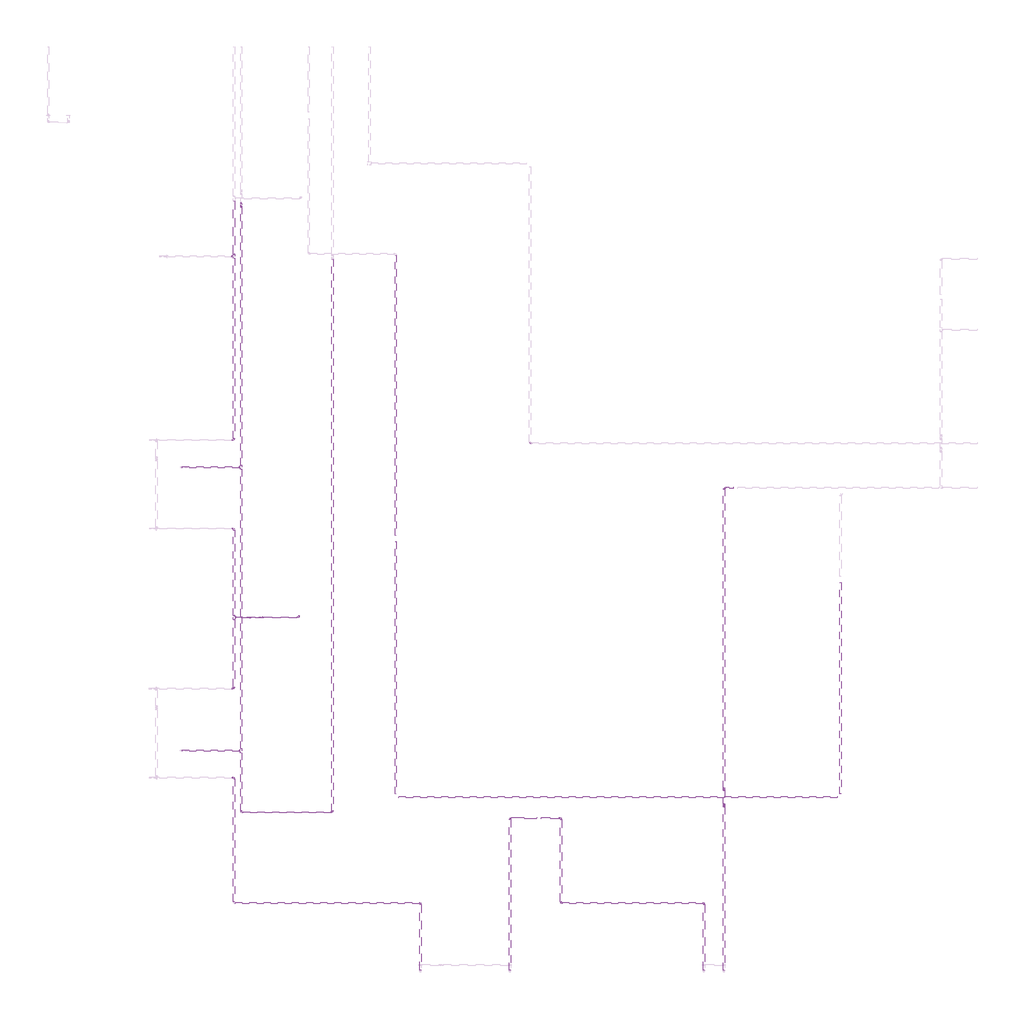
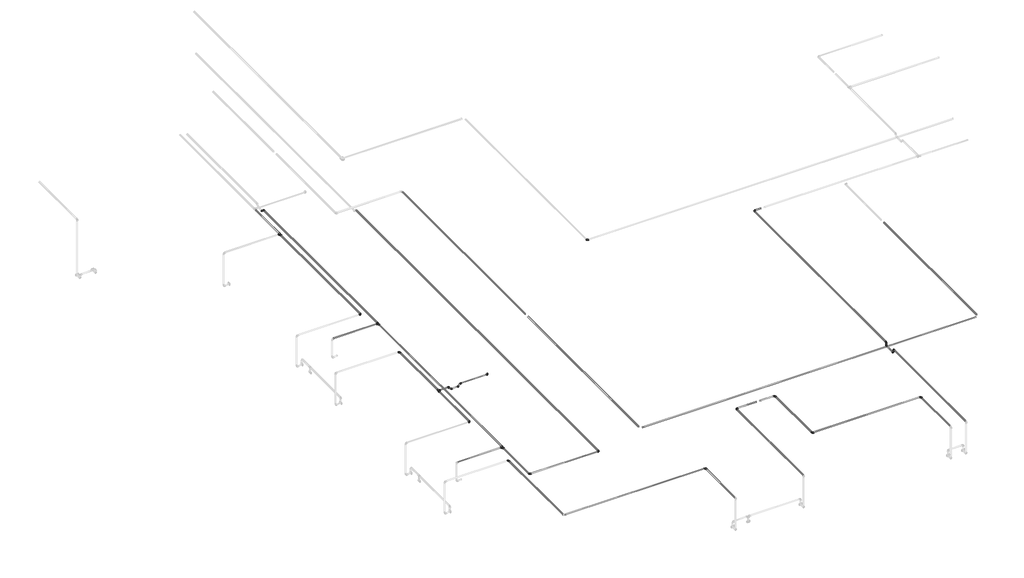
# One storey, part 6 of 40: 37 cable carrier segments, 28 cable carrier fittings.
"""IFC4 building model written with IfcOpenShell, lengths in millimetres."""

from ifc_helpers import new_model, si_unit, point, frame, frame_2d, origin, place, context, project, spatial, circle_curve, trimmed, segment, composite_curve, outline, extrude, transform, mapped, element, save
from components import cable_carrier_fitting_69f1a801, cable_carrier_fitting_8122f9af, cable_carrier_fitting_8fd13dfc

model = new_model("IFC4")

# Units and contexts
model_context = context("Model", 3, world=origin())
ifc_project = project(units=[si_unit("LENGTHUNIT", "METRE", prefix="MILLI")], contexts=[model_context])

# Site, building, storey
site = spatial("IfcSite", under=ifc_project)
building = spatial("IfcBuilding", under=site)
storey = spatial("IfcBuildingStorey", under=building, Name="1 этаж", Elevation=0.0)

# Cable carrier fittings
placement = place(None, origin())
cable_carrier_fitting_shape = cable_carrier_fitting_69f1a801(model_context)
element("IfcCableCarrierFitting", 1, ObjectType="ADSK_Поворот_Минимальный размер : Неспецифицируемый", at=placement, inside=storey, context=model_context, shape_type="MappedRepresentation", body=[
    mapped(cable_carrier_fitting_shape, transform((-11157.3240021, -4592.8629733, 3189.9998546), x_axis=(0.0, -0.9999999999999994, -3.56622215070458e-08), y_axis=(0.9999999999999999, 0.0, 2.0541520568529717e-08), z_axis=(-2.0541520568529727e-08, -3.5662221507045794e-08, 0.9999999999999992))),
])
element("IfcCableCarrierFitting", 2, ObjectType="ADSK_Поворот_Минимальный размер : Неспецифицируемый", at=placement, inside=storey, context=model_context, shape_type="MappedRepresentation", body=[
    mapped(cable_carrier_fitting_shape, transform((-8307.3240021, -5245.3629895, 3187.0), x_axis=(-1.0, 0.0, 0.0), y_axis=(0.0, -1.0, 0.0), z_axis=(0.0, 0.0, 1.0))),
])
element("IfcCableCarrierFitting", 3, ObjectType="ADSK_Поворот_Минимальный размер : Неспецифицируемый", at=placement, inside=storey, context=model_context, shape_type="MappedRepresentation", body=[
    mapped(cable_carrier_fitting_shape, transform((-8307.3240021, -9676.9321665, 3187.0), x_axis=(0.0, -1.0, 0.0), y_axis=(0.0, 0.0, -1.0), z_axis=(1.0, 0.0, 0.0))),
])
element("IfcCableCarrierFitting", 4, ObjectType="ADSK_Поворот_Минимальный размер : Неспецифицируемый", at=placement, inside=storey, context=model_context, shape_type="MappedRepresentation", body=[
    mapped(cable_carrier_fitting_shape, transform((-8307.3240021, -9676.9321665, 3120.0), x_axis=(0.0, 0.0, -1.0), y_axis=(0.0, -1.0, 0.0), z_axis=(-1.0, 0.0, 0.0))),
])
element("IfcCableCarrierFitting", 5, ObjectType="ADSK_Поворот_Минимальный размер : Неспецифицируемый", at=placement, inside=storey, context=model_context, shape_type="MappedRepresentation", body=[
    mapped(cable_carrier_fitting_shape, transform((-8307.3240021, -9916.9321665, 3120.0), x_axis=(0.0, -1.0, 0.0), y_axis=(0.0, 0.0, 1.0), z_axis=(-1.0, 0.0, 0.0))),
])
element("IfcCableCarrierFitting", 6, ObjectType="ADSK_Поворот_Минимальный размер : Неспецифицируемый", at=placement, inside=storey, context=model_context, shape_type="MappedRepresentation", body=[
    mapped(cable_carrier_fitting_shape, transform((-8307.3240021, -9916.9321665, 3187.0), x_axis=(0.0, 0.0, 1.0), y_axis=(0.0, -1.0, 0.0), z_axis=(1.0, 0.0, 0.0))),
])
element("IfcCableCarrierFitting", 7, ObjectType="ADSK_Поворот_Минимальный размер : Неспецифицируемый", at=placement, inside=storey, context=model_context, shape_type="MappedRepresentation", body=[
    mapped(cable_carrier_fitting_shape, transform((-12767.3240021, -11350.3629895, 3187.0), x_axis=(0.0, 1.0, 0.0), y_axis=(-1.0, 0.0, 0.0), z_axis=(0.0, 0.0, 1.0))),
])
element("IfcCableCarrierFitting", 8, ObjectType="ADSK_Поворот_Минимальный размер : Неспецифицируемый", at=placement, inside=storey, context=model_context, shape_type="MappedRepresentation", body=[
    mapped(cable_carrier_fitting_shape, transform((-15509.3240021, -9505.3629895, 3187.0), x_axis=(0.0, 1.0, 0.0), y_axis=(-1.0, 0.0, 0.0), z_axis=(0.0, 0.0, 1.0))),
])
element("IfcCableCarrierFitting", 9, ObjectType="ADSK_Поворот_Минимальный размер : Неспецифицируемый", at=placement, inside=storey, context=model_context, shape_type="MappedRepresentation", body=[
    mapped(cable_carrier_fitting_shape, transform((-15509.3240021, -4545.3629895, 3166.0), x_axis=(1.0, 0.0, 0.0), y_axis=(0.0, 1.0, 0.0), z_axis=(0.0, 0.0, 1.0))),
])
element("IfcCableCarrierFitting", 10, ObjectType="ADSK_Поворот_Минимальный размер : Неспецифицируемый", at=placement, inside=storey, context=model_context, shape_type="MappedRepresentation", body=[
    mapped(cable_carrier_fitting_shape, transform((-10704.8240021, -10102.8629895, 3187.0), x_axis=(0.0, 1.0, 0.0), y_axis=(-1.0, 0.0, 0.0), z_axis=(0.0, 0.0, 1.0))),
])
element("IfcCableCarrierFitting", 11, ObjectType="ADSK_Поворот_Минимальный размер : Неспецифицируемый", at=placement, inside=storey, context=model_context, shape_type="MappedRepresentation", body=[
    mapped(cable_carrier_fitting_shape, transform((-11452.3240021, -10102.8629895, 3187.0), x_axis=(-1.0, 0.0, 0.0), y_axis=(0.0, -1.0, 0.0), z_axis=(0.0, 0.0, 1.0))),
])
element("IfcCableCarrierFitting", 12, ObjectType="ADSK_Поворот_Минимальный размер : Неспецифицируемый", at=placement, inside=storey, context=model_context, shape_type="MappedRepresentation", body=[
    mapped(cable_carrier_fitting_shape, transform((-10704.8240021, -11350.3629895, 3187.0), x_axis=(0.0, -1.0, 0.0), y_axis=(1.0, 0.0, 0.0), z_axis=(0.0, 0.0, 1.0))),
])
element("IfcCableCarrierFitting", 13, ObjectType="ADSK_Поворот_Минимальный размер : Неспецифицируемый", at=placement, inside=storey, context=model_context, shape_type="MappedRepresentation", body=[
    mapped(cable_carrier_fitting_shape, transform((-8602.3240021, -11350.3629895, 3187.0), x_axis=(0.0, 1.0, 0.0), y_axis=(-1.0, 0.0, 0.0), z_axis=(0.0, 0.0, 1.0))),
])
element("IfcCableCarrierFitting", 14, ObjectType="ADSK_Поворот_Минимальный размер : Неспецифицируемый", at=placement, inside=storey, context=model_context, shape_type="MappedRepresentation", body=[
    mapped(cable_carrier_fitting_shape, transform((-14557.3240021, -7152.0021867, 3187.0), x_axis=(1.0, 0.0, 0.0), y_axis=(0.0, 1.0, 0.0), z_axis=(0.0, 0.0, 1.0))),
])
element("IfcCableCarrierFitting", 15, ObjectType="ADSK_Поворот_Минимальный размер : Неспецифицируемый", at=placement, inside=storey, context=model_context, shape_type="MappedRepresentation", body=[
    mapped(cable_carrier_fitting_shape, transform((-15509.3240021, -8200.3629895, 3187.0), x_axis=(1.0, 0.0, 0.0), y_axis=(0.0, 1.0, 0.0), z_axis=(0.0, 0.0, 1.0))),
])
element("IfcCableCarrierFitting", 16, ObjectType="ADSK_Поворот_Минимальный размер : Неспецифицируемый", at=placement, inside=storey, context=model_context, shape_type="MappedRepresentation", body=[
    mapped(cable_carrier_fitting_shape, transform((-15509.3240021, -5845.3629895, 3187.0), x_axis=(0.0, 1.0, 0.0), y_axis=(-1.0, 0.0, 0.0), z_axis=(0.0, 0.0, 1.0))),
])
element("IfcCableCarrierFitting", 17, ObjectType="ADSK_Поворот_Минимальный размер : Неспецифицируемый", at=placement, inside=storey, context=model_context, shape_type="MappedRepresentation", body=[
    mapped(cable_carrier_fitting_shape, transform((-15402.3240021, -10017.9201449, 3180.0), x_axis=(0.0, -1.0, 0.0), y_axis=(1.0, 0.0, 0.0), z_axis=(0.0, 0.0, 1.0))),
])
element("IfcCableCarrierFitting", 18, ObjectType="ADSK_Поворот_Минимальный размер : Неспецифицируемый", at=placement, inside=storey, context=model_context, shape_type="MappedRepresentation", body=[
    mapped(cable_carrier_fitting_shape, transform((-14061.8509929, -10017.9201449, 3180.0), x_axis=(1.0, 0.0, 0.0), y_axis=(0.0, 1.0, 0.0), z_axis=(0.0, 0.0, 1.0))),
])
cable_carrier_fitting_2_shape = cable_carrier_fitting_8122f9af(model_context)
element("IfcCableCarrierFitting", 19, ObjectType="ADSK_Поворот_Минимальный размер : Неспецифицируемый", at=placement, inside=storey, context=model_context, shape_type="MappedRepresentation", body=[
    mapped(cable_carrier_fitting_2_shape, transform((-15402.3240021, -1109.556006, 3180.0), x_axis=(0.0, 1.0, 0.0), y_axis=(0.0, 0.0, -1.0), z_axis=(-1.0, 0.0, 0.0))),
])
element("IfcCableCarrierFitting", 20, ObjectType="ADSK_Поворот_Минимальный размер : Неспецифицируемый", at=placement, inside=storey, context=model_context, shape_type="MappedRepresentation", body=[
    mapped(cable_carrier_fitting_2_shape, transform((-15402.3240021, -1059.556006, 3130.0), x_axis=(0.0, 0.7071067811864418, -0.7071067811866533), y_axis=(0.0, 0.7071067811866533, 0.7071067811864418), z_axis=(1.0, 0.0, 0.0))),
])
element("IfcCableCarrierFitting", 21, ObjectType="ADSK_Поворот_Минимальный размер : Неспецифицируемый", at=placement, inside=storey, context=model_context, shape_type="MappedRepresentation", body=[
    mapped(cable_carrier_fitting_2_shape, transform((-15130.7517309, -7152.0021867, 3137.0), x_axis=(-0.7071067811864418, 0.0, -0.7071067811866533), y_axis=(-0.7071067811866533, 0.0, 0.7071067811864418), z_axis=(0.0, 1.0, 0.0))),
])
element("IfcCableCarrierFitting", 22, ObjectType="ADSK_Поворот_Минимальный размер : Неспецифицируемый", at=placement, inside=storey, context=model_context, shape_type="MappedRepresentation", body=[
    mapped(cable_carrier_fitting_2_shape, transform((-15263.8962734, -7152.0021867, 3137.0), x_axis=(-1.0, 0.0, 0.0), y_axis=(0.0, 0.0, 1.0), z_axis=(0.0, 1.0, 0.0))),
])
element("IfcCableCarrierFitting", 23, ObjectType="ADSK_Поворот_Минимальный размер : Неспецифицируемый", at=placement, inside=storey, context=model_context, shape_type="MappedRepresentation", body=[
    mapped(cable_carrier_fitting_2_shape, transform((-15080.7517309, -7152.0021867, 3187.0), x_axis=(0.7071067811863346, 0.0, 0.7071067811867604), y_axis=(0.7071067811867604, 0.0, -0.7071067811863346), z_axis=(0.0, 1.0, 0.0))),
])
element("IfcCableCarrierFitting", 24, ObjectType="ADSK_Поворот_Минимальный размер : Неспецифицируемый", at=placement, inside=storey, context=model_context, shape_type="MappedRepresentation", body=[
    mapped(cable_carrier_fitting_2_shape, transform((-15313.8962734, -7152.0021867, 3187.0), x_axis=(-0.7071067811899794, 0.0, 0.7071067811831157), y_axis=(-0.7071067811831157, 0.0, -0.7071067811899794), z_axis=(0.0, -1.0, 0.0))),
])
cable_carrier_fitting_3_shape = cable_carrier_fitting_8fd13dfc(model_context)
element("IfcCableCarrierFitting", 25, ObjectType="ADSK_Тройник : ПВХ", at=placement, inside=storey, context=model_context, shape_type="MappedRepresentation", body=[
    mapped(cable_carrier_fitting_3_shape, transform((-15402.3240021, -4942.8629895, 3180.0), x_axis=(0.0, -1.0, 0.0), y_axis=(1.0, 0.0, 0.0), z_axis=(0.0, 0.0, 1.0))),
])
element("IfcCableCarrierFitting", 26, ObjectType="ADSK_Тройник : ПВХ", at=placement, inside=storey, context=model_context, shape_type="MappedRepresentation", body=[
    mapped(cable_carrier_fitting_3_shape, transform((-15402.3240021, -9110.3629895, 3180.0), x_axis=(0.0, -1.0, 0.0), y_axis=(1.0, 0.0, 0.0), z_axis=(0.0, 0.0, 1.0))),
])
element("IfcCableCarrierFitting", 27, ObjectType="ADSK_Тройник : ПВХ", at=placement, inside=storey, context=model_context, shape_type="MappedRepresentation", body=[
    mapped(cable_carrier_fitting_3_shape, transform((-15509.3240021, -7152.0021867, 3187.0), x_axis=(0.0, 1.0, 0.0), y_axis=(-1.0, 0.0, 0.0), z_axis=(0.0, 0.0, 1.0))),
])
element("IfcCableCarrierFitting", 28, ObjectType="ADSK_Тройник : ПВХ", at=placement, inside=storey, context=model_context, shape_type="MappedRepresentation", body=[
    mapped(cable_carrier_fitting_3_shape, transform((-15509.3240021, -1842.8629895, 3166.0), x_axis=(0.0, -1.0, 0.0), y_axis=(1.0, 0.0, 0.0), z_axis=(0.0, 0.0, 1.0))),
])

# Cable carrier segments
element("IfcCableCarrierSegment", 29, ObjectType="Гофрированная труба", at=placement, inside=storey, context=model_context, shape_type="SweptSolid", body=[
    extrude(outline(composite_curve([segment(trimmed(circle_curve(frame_2d((3189.958066, -6594.7740026)), 10.0), [point((3189.958066, -6604.7740026))], [point((3179.958066, -6594.7740026))], False, "CARTESIAN"), True, "CONTINUOUS"), segment(trimmed(circle_curve(frame_2d((3189.958066, -6594.7740026)), 10.0), [point((3179.958066, -6594.7740026))], [point((3189.958066, -6584.7740026))], False, "CARTESIAN"), True, "CONTINUOUS"), segment(trimmed(circle_curve(frame_2d((3189.958066, -6594.7740026)), 10.0), [point((3189.958066, -6584.7740026))], [point((3199.958066, -6594.7740026))], False, "CARTESIAN"), True, "CONTINUOUS"), segment(trimmed(circle_curve(frame_2d((3189.958066, -6594.7740026)), 10.0), [point((3199.958066, -6594.7740026))], [point((3189.958066, -6604.7740026))], False, "CARTESIAN"), True, "CONTINUOUS")], self_intersect=False)), frame((0.0, -9748.8629895, 0.0), z_axis=(0.0, 1.0, 0.0), x_axis=(0.0, 0.0, 1.0)), (0.0, 0.0, 1.0), 3107.0),
])
element("IfcCableCarrierSegment", 30, ObjectType="Гофрированная труба", at=placement, inside=storey, context=model_context, shape_type="SweptSolid", body=[
    extrude(outline(composite_curve([segment(trimmed(circle_curve(frame_2d((-9795.3629895, 3189.958066)), 10.0), [point((-9805.3629895, 3189.958066))], [point((-9795.3629895, 3199.958066))], False, "CARTESIAN"), True, "CONTINUOUS"), segment(trimmed(circle_curve(frame_2d((-9795.3629895, 3189.958066)), 10.0), [point((-9795.3629895, 3199.958066))], [point((-9785.3629895, 3189.958066))], False, "CARTESIAN"), True, "CONTINUOUS"), segment(trimmed(circle_curve(frame_2d((-9795.3629895, 3189.958066)), 10.0), [point((-9785.3629895, 3189.958066))], [point((-9795.3629895, 3179.958066))], False, "CARTESIAN"), True, "CONTINUOUS"), segment(trimmed(circle_curve(frame_2d((-9795.3629895, 3189.958066)), 10.0), [point((-9795.3629895, 3179.958066))], [point((-9805.3629895, 3189.958066))], False, "CARTESIAN"), True, "CONTINUOUS")], self_intersect=False)), frame((-13085.8240021, 0.0, 0.0), z_axis=(1.0, 0.0, 0.0), x_axis=(0.0, 1.0, 0.0)), (0.0, 0.0, 1.0), 6444.5499995),
])
element("IfcCableCarrierSegment", 31, ObjectType="Гофрированная труба", at=placement, inside=storey, context=model_context, shape_type="SweptSolid", body=[
    extrude(outline(composite_curve([segment(trimmed(circle_curve(frame_2d((0.0, -10.0)), 10.0), [point((0.0, -20.0))], [point((-10.0, -10.0))], False, "CARTESIAN"), True, "CONTINUOUS"), segment(trimmed(circle_curve(frame_2d((0.0, -10.0)), 10.0), [point((-10.0, -10.0))], [point((0.0, 0.0))], False, "CARTESIAN"), True, "CONTINUOUS"), segment(trimmed(circle_curve(frame_2d((0.0, -10.0)), 10.0), [point((0.0, 0.0))], [point((10.0, -10.0))], False, "CARTESIAN"), True, "CONTINUOUS"), segment(trimmed(circle_curve(frame_2d((0.0, -10.0)), 10.0), [point((10.0, -10.0))], [point((0.0, -20.0))], False, "CARTESIAN"), True, "CONTINUOUS")], self_intersect=False)), frame((-13142.3240021, -6039.3629895, 3189.249755), z_axis=(0.0, -0.9999999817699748, 0.00019094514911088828), x_axis=(0.0, 0.00019094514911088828, 0.9999999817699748)), (0.0, 0.0, 1.0), 3709.5000676),
])
element("IfcCableCarrierSegment", 32, ObjectType="Гофрированная труба", at=placement, inside=storey, context=model_context, shape_type="SweptSolid", body=[
    extrude(outline(composite_curve([segment(trimmed(circle_curve(frame_2d((0.0, 10.0)), 10.0), [point((0.0, 20.0))], [point((10.0, 10.0))], False, "CARTESIAN"), True, "CONTINUOUS"), segment(trimmed(circle_curve(frame_2d((0.0, 10.0)), 10.0), [point((10.0, 10.0))], [point((0.0, 0.0))], False, "CARTESIAN"), True, "CONTINUOUS"), segment(trimmed(circle_curve(frame_2d((0.0, 10.0)), 10.0), [point((0.0, 0.0))], [point((-10.0, 10.0))], False, "CARTESIAN"), True, "CONTINUOUS"), segment(trimmed(circle_curve(frame_2d((0.0, 10.0)), 10.0), [point((-10.0, 10.0))], [point((0.0, 20.0))], False, "CARTESIAN"), True, "CONTINUOUS")], self_intersect=False)), frame((-13142.3240021, -5946.3629895, 3189.249755), z_axis=(0.0, 0.9999999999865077, 5.194688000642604e-06), x_axis=(0.0, -5.194688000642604e-06, 0.9999999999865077)), (0.0, 0.0, 1.0), 4116.5001344),
])
element("IfcCableCarrierSegment", 33, ObjectType="Гофрированная труба", at=placement, inside=storey, context=model_context, shape_type="SweptSolid", body=[
    extrude(outline(composite_curve([segment(trimmed(circle_curve(frame_2d((-5245.3629895, 3187.0)), 10.0), [point((-5235.3629895, 3187.0))], [point((-5245.3629895, 3177.0))], False, "CARTESIAN"), True, "CONTINUOUS"), segment(trimmed(circle_curve(frame_2d((-5245.3629895, 3187.0)), 10.0), [point((-5245.3629895, 3177.0))], [point((-5255.3629895, 3187.0))], False, "CARTESIAN"), True, "CONTINUOUS"), segment(trimmed(circle_curve(frame_2d((-5245.3629895, 3187.0)), 10.0), [point((-5255.3629895, 3187.0))], [point((-5245.3629895, 3197.0))], False, "CARTESIAN"), True, "CONTINUOUS"), segment(trimmed(circle_curve(frame_2d((-5245.3629895, 3187.0)), 10.0), [point((-5245.3629895, 3197.0))], [point((-5235.3629895, 3187.0))], False, "CARTESIAN"), True, "CONTINUOUS")], self_intersect=False)), frame((-8286.3240021, 0.0, 0.0), z_axis=(1.0, 0.0, 0.0), x_axis=(0.0, 1.0, 0.0)), (0.0, 0.0, 1.0), 116.6102785),
])
element("IfcCableCarrierSegment", 34, ObjectType="Гофрированная труба", at=placement, inside=storey, context=model_context, shape_type="SweptSolid", body=[
    extrude(outline(composite_curve([segment(trimmed(circle_curve(frame_2d((3187.0, -8307.3240021)), 10.0), [point((3187.0, -8317.3240021))], [point((3177.0, -8307.3240021))], False, "CARTESIAN"), True, "CONTINUOUS"), segment(trimmed(circle_curve(frame_2d((3187.0, -8307.3240021)), 10.0), [point((3177.0, -8307.3240021))], [point((3187.0, -8297.3240021))], False, "CARTESIAN"), True, "CONTINUOUS"), segment(trimmed(circle_curve(frame_2d((3187.0, -8307.3240021)), 10.0), [point((3187.0, -8297.3240021))], [point((3197.0, -8307.3240021))], False, "CARTESIAN"), True, "CONTINUOUS"), segment(trimmed(circle_curve(frame_2d((3187.0, -8307.3240021)), 10.0), [point((3197.0, -8307.3240021))], [point((3187.0, -8317.3240021))], False, "CARTESIAN"), True, "CONTINUOUS")], self_intersect=False)), frame((0.0, -9655.9321665, 0.0), z_axis=(0.0, 1.0, 0.0), x_axis=(0.0, 0.0, 1.0)), (0.0, 0.0, 1.0), 4389.569177),
])
element("IfcCableCarrierSegment", 35, ObjectType="Гофрированная труба", at=placement, inside=storey, context=model_context, shape_type="SweptSolid", body=[
    extrude(outline(composite_curve([segment(trimmed(circle_curve(frame_2d((3120.0, -8307.3240021)), 10.0), [point((3120.0, -8317.3240021))], [point((3110.0, -8307.3240021))], False, "CARTESIAN"), True, "CONTINUOUS"), segment(trimmed(circle_curve(frame_2d((3120.0, -8307.3240021)), 10.0), [point((3110.0, -8307.3240021))], [point((3120.0, -8297.3240021))], False, "CARTESIAN"), True, "CONTINUOUS"), segment(trimmed(circle_curve(frame_2d((3120.0, -8307.3240021)), 10.0), [point((3120.0, -8297.3240021))], [point((3130.0, -8307.3240021))], False, "CARTESIAN"), True, "CONTINUOUS"), segment(trimmed(circle_curve(frame_2d((3120.0, -8307.3240021)), 10.0), [point((3130.0, -8307.3240021))], [point((3120.0, -8317.3240021))], False, "CARTESIAN"), True, "CONTINUOUS")], self_intersect=False)), frame((0.0, -9895.9321665, 0.0), z_axis=(0.0, 1.0, 0.0), x_axis=(0.0, 0.0, 1.0)), (0.0, 0.0, 1.0), 198.0),
])
element("IfcCableCarrierSegment", 36, ObjectType="Гофрированная труба", at=placement, inside=storey, context=model_context, shape_type="SweptSolid", body=[
    extrude(outline(composite_curve([segment(trimmed(circle_curve(frame_2d((-8307.3240021, -9676.9321665)), 10.0), [point((-8297.3240021, -9676.9321665))], [point((-8307.3240021, -9686.9321665))], False, "CARTESIAN"), True, "CONTINUOUS"), segment(trimmed(circle_curve(frame_2d((-8307.3240021, -9676.9321665)), 10.0), [point((-8307.3240021, -9686.9321665))], [point((-8317.3240021, -9676.9321665))], False, "CARTESIAN"), True, "CONTINUOUS"), segment(trimmed(circle_curve(frame_2d((-8307.3240021, -9676.9321665)), 10.0), [point((-8317.3240021, -9676.9321665))], [point((-8307.3240021, -9666.9321665))], False, "CARTESIAN"), True, "CONTINUOUS"), segment(trimmed(circle_curve(frame_2d((-8307.3240021, -9676.9321665)), 10.0), [point((-8307.3240021, -9666.9321665))], [point((-8297.3240021, -9676.9321665))], False, "CARTESIAN"), True, "CONTINUOUS")], self_intersect=False)), frame((0.0, 0.0, 3141.0), z_axis=(0.0, 0.0, 1.0), x_axis=(1.0, 0.0, 0.0)), (0.0, 0.0, 1.0), 25.0),
])
element("IfcCableCarrierSegment", 37, ObjectType="Гофрированная труба", at=placement, inside=storey, context=model_context, shape_type="SweptSolid", body=[
    extrude(outline(composite_curve([segment(trimmed(circle_curve(frame_2d((3187.0, -8307.3240021)), 10.0), [point((3187.0, -8297.3240021))], [point((3197.0, -8307.3240021))], False, "CARTESIAN"), True, "CONTINUOUS"), segment(trimmed(circle_curve(frame_2d((3187.0, -8307.3240021)), 10.0), [point((3197.0, -8307.3240021))], [point((3187.0, -8317.3240021))], False, "CARTESIAN"), True, "CONTINUOUS"), segment(trimmed(circle_curve(frame_2d((3187.0, -8307.3240021)), 10.0), [point((3187.0, -8317.3240021))], [point((3177.0, -8307.3240021))], False, "CARTESIAN"), True, "CONTINUOUS"), segment(trimmed(circle_curve(frame_2d((3187.0, -8307.3240021)), 10.0), [point((3177.0, -8307.3240021))], [point((3187.0, -8297.3240021))], False, "CARTESIAN"), True, "CONTINUOUS")], self_intersect=False)), frame((0.0, -12338.5627951, 0.0), z_axis=(0.0, 1.0, 0.0), x_axis=(0.0, 0.0, 1.0)), (0.0, 0.0, 1.0), 2400.6306286),
])
element("IfcCableCarrierSegment", 38, ObjectType="Гофрированная труба", at=placement, inside=storey, context=model_context, shape_type="SweptSolid", body=[
    extrude(outline(composite_curve([segment(trimmed(circle_curve(frame_2d((0.0, 10.0)), 10.0), [point((-10.0, 10.0))], [point((0.0, 20.0))], False, "CARTESIAN"), True, "CONTINUOUS"), segment(trimmed(circle_curve(frame_2d((0.0, 10.0)), 10.0), [point((0.0, 20.0))], [point((10.0, 10.0))], False, "CARTESIAN"), True, "CONTINUOUS"), segment(trimmed(circle_curve(frame_2d((0.0, 10.0)), 10.0), [point((10.0, 10.0))], [point((0.0, 0.0))], False, "CARTESIAN"), True, "CONTINUOUS"), segment(trimmed(circle_curve(frame_2d((0.0, 10.0)), 10.0), [point((0.0, 0.0))], [point((-10.0, 10.0))], False, "CARTESIAN"), True, "CONTINUOUS")], self_intersect=False)), frame((-8307.3240021, -9926.9321665, 3141.0), z_axis=(0.0, 1.0287237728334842e-12, 1.0), x_axis=(1.0, 0.0, 0.0)), (0.0, 0.0, 1.0), 25.0),
])
element("IfcCableCarrierSegment", 39, ObjectType="Гофрированная труба", at=placement, inside=storey, context=model_context, shape_type="SweptSolid", body=[
    extrude(outline(composite_curve([segment(trimmed(circle_curve(frame_2d((3187.0, -8602.3240021)), 10.0), [point((3187.0, -8592.3240021))], [point((3197.0, -8602.3240021))], False, "CARTESIAN"), True, "CONTINUOUS"), segment(trimmed(circle_curve(frame_2d((3187.0, -8602.3240021)), 10.0), [point((3197.0, -8602.3240021))], [point((3187.0, -8612.3240021))], False, "CARTESIAN"), True, "CONTINUOUS"), segment(trimmed(circle_curve(frame_2d((3187.0, -8602.3240021)), 10.0), [point((3187.0, -8612.3240021))], [point((3177.0, -8602.3240021))], False, "CARTESIAN"), True, "CONTINUOUS"), segment(trimmed(circle_curve(frame_2d((3187.0, -8602.3240021)), 10.0), [point((3177.0, -8602.3240021))], [point((3187.0, -8592.3240021))], False, "CARTESIAN"), True, "CONTINUOUS")], self_intersect=False)), frame((0.0, -12338.5627951, 0.0), z_axis=(0.0, 1.0, 0.0), x_axis=(0.0, 0.0, 1.0)), (0.0, 0.0, 1.0), 967.1998056),
])
element("IfcCableCarrierSegment", 40, ObjectType="Гофрированная труба", at=placement, inside=storey, context=model_context, shape_type="SweptSolid", body=[
    extrude(outline(composite_curve([segment(trimmed(circle_curve(frame_2d((-11350.3629895, 3187.0)), 10.0), [point((-11360.3629895, 3187.0))], [point((-11350.3629895, 3197.0))], False, "CARTESIAN"), True, "CONTINUOUS"), segment(trimmed(circle_curve(frame_2d((-11350.3629895, 3187.0)), 10.0), [point((-11350.3629895, 3197.0))], [point((-11340.3629895, 3187.0))], False, "CARTESIAN"), True, "CONTINUOUS"), segment(trimmed(circle_curve(frame_2d((-11350.3629895, 3187.0)), 10.0), [point((-11340.3629895, 3187.0))], [point((-11350.3629895, 3177.0))], False, "CARTESIAN"), True, "CONTINUOUS"), segment(trimmed(circle_curve(frame_2d((-11350.3629895, 3187.0)), 10.0), [point((-11350.3629895, 3177.0))], [point((-11360.3629895, 3187.0))], False, "CARTESIAN"), True, "CONTINUOUS")], self_intersect=False)), frame((-10683.8240021, 0.0, 0.0), z_axis=(1.0, 0.0, 0.0), x_axis=(0.0, 1.0, 0.0)), (0.0, 0.0, 1.0), 2060.5),
])
element("IfcCableCarrierSegment", 41, ObjectType="Гофрированная труба", at=placement, inside=storey, context=model_context, shape_type="SweptSolid", body=[
    extrude(outline(composite_curve([segment(trimmed(circle_curve(frame_2d((3187.0, -11452.3240021)), 10.0), [point((3187.0, -11462.3240021))], [point((3177.0, -11452.3240021))], False, "CARTESIAN"), True, "CONTINUOUS"), segment(trimmed(circle_curve(frame_2d((3187.0, -11452.3240021)), 10.0), [point((3177.0, -11452.3240021))], [point((3187.0, -11442.3240021))], False, "CARTESIAN"), True, "CONTINUOUS"), segment(trimmed(circle_curve(frame_2d((3187.0, -11452.3240021)), 10.0), [point((3187.0, -11442.3240021))], [point((3197.0, -11452.3240021))], False, "CARTESIAN"), True, "CONTINUOUS"), segment(trimmed(circle_curve(frame_2d((3187.0, -11452.3240021)), 10.0), [point((3197.0, -11452.3240021))], [point((3187.0, -11462.3240021))], False, "CARTESIAN"), True, "CONTINUOUS")], self_intersect=False)), frame((0.0, -12338.5627951, 0.0), z_axis=(0.0, 1.0, 0.0), x_axis=(0.0, 0.0, 1.0)), (0.0, 0.0, 1.0), 2214.6998056),
])
element("IfcCableCarrierSegment", 42, ObjectType="Гофрированная труба", at=placement, inside=storey, context=model_context, shape_type="SweptSolid", body=[
    extrude(outline(composite_curve([segment(trimmed(circle_curve(frame_2d((3187.0, -12767.3240021)), 10.0), [point((3187.0, -12757.3240021))], [point((3197.0, -12767.3240021))], False, "CARTESIAN"), True, "CONTINUOUS"), segment(trimmed(circle_curve(frame_2d((3187.0, -12767.3240021)), 10.0), [point((3197.0, -12767.3240021))], [point((3187.0, -12777.3240021))], False, "CARTESIAN"), True, "CONTINUOUS"), segment(trimmed(circle_curve(frame_2d((3187.0, -12767.3240021)), 10.0), [point((3187.0, -12777.3240021))], [point((3177.0, -12767.3240021))], False, "CARTESIAN"), True, "CONTINUOUS"), segment(trimmed(circle_curve(frame_2d((3187.0, -12767.3240021)), 10.0), [point((3177.0, -12767.3240021))], [point((3187.0, -12757.3240021))], False, "CARTESIAN"), True, "CONTINUOUS")], self_intersect=False)), frame((0.0, -12338.5627951, 0.0), z_axis=(0.0, 1.0, 0.0), x_axis=(0.0, 0.0, 1.0)), (0.0, 0.0, 1.0), 967.1998056),
])
element("IfcCableCarrierSegment", 43, ObjectType="Гофрированная труба", at=placement, inside=storey, context=model_context, shape_type="SweptSolid", body=[
    extrude(outline(composite_curve([segment(trimmed(circle_curve(frame_2d((3187.0, -15509.3240021)), 10.0), [point((3187.0, -15519.3240021))], [point((3177.0, -15509.3240021))], False, "CARTESIAN"), True, "CONTINUOUS"), segment(trimmed(circle_curve(frame_2d((3187.0, -15509.3240021)), 10.0), [point((3177.0, -15509.3240021))], [point((3187.0, -15499.3240021))], False, "CARTESIAN"), True, "CONTINUOUS"), segment(trimmed(circle_curve(frame_2d((3187.0, -15509.3240021)), 10.0), [point((3187.0, -15499.3240021))], [point((3197.0, -15509.3240021))], False, "CARTESIAN"), True, "CONTINUOUS"), segment(trimmed(circle_curve(frame_2d((3187.0, -15509.3240021)), 10.0), [point((3197.0, -15509.3240021))], [point((3187.0, -15519.3240021))], False, "CARTESIAN"), True, "CONTINUOUS")], self_intersect=False)), frame((0.0, -11329.3629895, 0.0), z_axis=(0.0, 1.0, 0.0), x_axis=(0.0, 0.0, 1.0)), (0.0, 0.0, 1.0), 1803.0),
])
element("IfcCableCarrierSegment", 44, ObjectType="Гофрированная труба", at=placement, inside=storey, context=model_context, shape_type="SweptSolid", body=[
    extrude(outline(composite_curve([segment(trimmed(circle_curve(frame_2d((-11350.3629895, 3187.0)), 10.0), [point((-11340.3629895, 3187.0))], [point((-11350.3629895, 3177.0))], False, "CARTESIAN"), True, "CONTINUOUS"), segment(trimmed(circle_curve(frame_2d((-11350.3629895, 3187.0)), 10.0), [point((-11350.3629895, 3177.0))], [point((-11360.3629895, 3187.0))], False, "CARTESIAN"), True, "CONTINUOUS"), segment(trimmed(circle_curve(frame_2d((-11350.3629895, 3187.0)), 10.0), [point((-11360.3629895, 3187.0))], [point((-11350.3629895, 3197.0))], False, "CARTESIAN"), True, "CONTINUOUS"), segment(trimmed(circle_curve(frame_2d((-11350.3629895, 3187.0)), 10.0), [point((-11350.3629895, 3197.0))], [point((-11340.3629895, 3187.0))], False, "CARTESIAN"), True, "CONTINUOUS")], self_intersect=False)), frame((-15488.3240021, 0.0, 0.0), z_axis=(1.0, 0.0, 0.0), x_axis=(0.0, 1.0, 0.0)), (0.0, 0.0, 1.0), 2700.0),
])
element("IfcCableCarrierSegment", 45, ObjectType="Гофрированная труба", at=placement, inside=storey, context=model_context, shape_type="SweptSolid", body=[
    extrude(outline(composite_curve([segment(trimmed(circle_curve(frame_2d((-7152.0021867, 3137.0)), 10.0), [point((-7142.0021867, 3137.0))], [point((-7152.0021867, 3127.0))], False, "CARTESIAN"), True, "CONTINUOUS"), segment(trimmed(circle_curve(frame_2d((-7152.0021867, 3137.0)), 10.0), [point((-7152.0021867, 3127.0))], [point((-7162.0021867, 3137.0))], False, "CARTESIAN"), True, "CONTINUOUS"), segment(trimmed(circle_curve(frame_2d((-7152.0021867, 3137.0)), 10.0), [point((-7162.0021867, 3137.0))], [point((-7152.0021867, 3147.0))], False, "CARTESIAN"), True, "CONTINUOUS"), segment(trimmed(circle_curve(frame_2d((-7152.0021867, 3137.0)), 10.0), [point((-7152.0021867, 3147.0))], [point((-7142.0021867, 3137.0))], False, "CARTESIAN"), True, "CONTINUOUS")], self_intersect=False)), frame((-15254.6120021, 0.0, 0.0), z_axis=(1.0, 0.0, 0.0), x_axis=(0.0, 1.0, 0.0)), (0.0, 0.0, 1.0), 114.576),
])
element("IfcCableCarrierSegment", 46, ObjectType="Гофрированная труба", at=placement, inside=storey, context=model_context, shape_type="SweptSolid", body=[
    extrude(outline(composite_curve([segment(trimmed(circle_curve(frame_2d((-10017.9201449, 3180.0)), 10.0), [point((-10007.9201449, 3180.0))], [point((-10017.9201449, 3170.0))], False, "CARTESIAN"), True, "CONTINUOUS"), segment(trimmed(circle_curve(frame_2d((-10017.9201449, 3180.0)), 10.0), [point((-10017.9201449, 3170.0))], [point((-10027.9201449, 3180.0))], False, "CARTESIAN"), True, "CONTINUOUS"), segment(trimmed(circle_curve(frame_2d((-10017.9201449, 3180.0)), 10.0), [point((-10027.9201449, 3180.0))], [point((-10017.9201449, 3190.0))], False, "CARTESIAN"), True, "CONTINUOUS"), segment(trimmed(circle_curve(frame_2d((-10017.9201449, 3180.0)), 10.0), [point((-10017.9201449, 3190.0))], [point((-10007.9201449, 3180.0))], False, "CARTESIAN"), True, "CONTINUOUS")], self_intersect=False)), frame((-15381.3240021, 0.0, 0.0), z_axis=(1.0, 0.0, 0.0), x_axis=(0.0, 1.0, 0.0)), (0.0, 0.0, 1.0), 1298.4730092),
])
element("IfcCableCarrierSegment", 47, ObjectType="Гофрированная труба", at=placement, inside=storey, context=model_context, shape_type="SweptSolid", body=[
    extrude(outline(composite_curve([segment(trimmed(circle_curve(frame_2d((-4942.8629895, 3180.0)), 10.0), [point((-4932.8629895, 3180.0))], [point((-4942.8629895, 3170.0))], False, "CARTESIAN"), True, "CONTINUOUS"), segment(trimmed(circle_curve(frame_2d((-4942.8629895, 3180.0)), 10.0), [point((-4942.8629895, 3170.0))], [point((-4952.8629895, 3180.0))], False, "CARTESIAN"), True, "CONTINUOUS"), segment(trimmed(circle_curve(frame_2d((-4942.8629895, 3180.0)), 10.0), [point((-4952.8629895, 3180.0))], [point((-4942.8629895, 3190.0))], False, "CARTESIAN"), True, "CONTINUOUS"), segment(trimmed(circle_curve(frame_2d((-4942.8629895, 3180.0)), 10.0), [point((-4942.8629895, 3190.0))], [point((-4932.8629895, 3180.0))], False, "CARTESIAN"), True, "CONTINUOUS")], self_intersect=False)), frame((-16268.5238077, 0.0, 0.0), z_axis=(1.0, 0.0, 0.0), x_axis=(0.0, 1.0, 0.0)), (0.0, 0.0, 1.0), 836.1998056),
])
element("IfcCableCarrierSegment", 48, ObjectType="Гофрированная труба", at=placement, inside=storey, context=model_context, shape_type="SweptSolid", body=[
    extrude(outline(composite_curve([segment(trimmed(circle_curve(frame_2d((3180.0, -15402.3240021)), 10.0), [point((3180.0, -15392.3240021))], [point((3190.0, -15402.3240021))], False, "CARTESIAN"), True, "CONTINUOUS"), segment(trimmed(circle_curve(frame_2d((3180.0, -15402.3240021)), 10.0), [point((3190.0, -15402.3240021))], [point((3180.0, -15412.3240021))], False, "CARTESIAN"), True, "CONTINUOUS"), segment(trimmed(circle_curve(frame_2d((3180.0, -15402.3240021)), 10.0), [point((3180.0, -15412.3240021))], [point((3170.0, -15402.3240021))], False, "CARTESIAN"), True, "CONTINUOUS"), segment(trimmed(circle_curve(frame_2d((3180.0, -15402.3240021)), 10.0), [point((3170.0, -15402.3240021))], [point((3180.0, -15392.3240021))], False, "CARTESIAN"), True, "CONTINUOUS")], self_intersect=False)), frame((0.0, -9080.3629895, 0.0), z_axis=(0.0, 1.0, 0.0), x_axis=(0.0, 0.0, 1.0)), (0.0, 0.0, 1.0), 4107.5),
])
element("IfcCableCarrierSegment", 49, ObjectType="Гофрированная труба", at=placement, inside=storey, context=model_context, shape_type="SweptSolid", body=[
    extrude(outline(composite_curve([segment(trimmed(circle_curve(frame_2d((-9110.3629895, 3180.0)), 10.0), [point((-9100.3629895, 3180.0))], [point((-9110.3629895, 3170.0))], False, "CARTESIAN"), True, "CONTINUOUS"), segment(trimmed(circle_curve(frame_2d((-9110.3629895, 3180.0)), 10.0), [point((-9110.3629895, 3170.0))], [point((-9120.3629895, 3180.0))], False, "CARTESIAN"), True, "CONTINUOUS"), segment(trimmed(circle_curve(frame_2d((-9110.3629895, 3180.0)), 10.0), [point((-9120.3629895, 3180.0))], [point((-9110.3629895, 3190.0))], False, "CARTESIAN"), True, "CONTINUOUS"), segment(trimmed(circle_curve(frame_2d((-9110.3629895, 3180.0)), 10.0), [point((-9110.3629895, 3190.0))], [point((-9100.3629895, 3180.0))], False, "CARTESIAN"), True, "CONTINUOUS")], self_intersect=False)), frame((-16268.5238077, 0.0, 0.0), z_axis=(1.0, 0.0, 0.0), x_axis=(0.0, 1.0, 0.0)), (0.0, 0.0, 1.0), 836.1998056),
])
element("IfcCableCarrierSegment", 50, ObjectType="Гофрированная труба", at=placement, inside=storey, context=model_context, shape_type="SweptSolid", body=[
    extrude(outline(composite_curve([segment(trimmed(circle_curve(frame_2d((3180.0, -15402.3240021)), 10.0), [point((3180.0, -15392.3240021))], [point((3190.0, -15402.3240021))], False, "CARTESIAN"), True, "CONTINUOUS"), segment(trimmed(circle_curve(frame_2d((3180.0, -15402.3240021)), 10.0), [point((3190.0, -15402.3240021))], [point((3180.0, -15412.3240021))], False, "CARTESIAN"), True, "CONTINUOUS"), segment(trimmed(circle_curve(frame_2d((3180.0, -15402.3240021)), 10.0), [point((3180.0, -15412.3240021))], [point((3170.0, -15402.3240021))], False, "CARTESIAN"), True, "CONTINUOUS"), segment(trimmed(circle_curve(frame_2d((3180.0, -15402.3240021)), 10.0), [point((3170.0, -15402.3240021))], [point((3180.0, -15392.3240021))], False, "CARTESIAN"), True, "CONTINUOUS")], self_intersect=False)), frame((0.0, -9996.9201449, 0.0), z_axis=(0.0, 1.0, 0.0), x_axis=(0.0, 0.0, 1.0)), (0.0, 0.0, 1.0), 856.5571554),
])
element("IfcCableCarrierSegment", 51, ObjectType="Гофрированная труба", at=placement, inside=storey, context=model_context, shape_type="SweptSolid", body=[
    extrude(outline(composite_curve([segment(trimmed(circle_curve(frame_2d((3180.0, -15402.3240021)), 10.0), [point((3180.0, -15392.3240021))], [point((3190.0, -15402.3240021))], False, "CARTESIAN"), True, "CONTINUOUS"), segment(trimmed(circle_curve(frame_2d((3180.0, -15402.3240021)), 10.0), [point((3190.0, -15402.3240021))], [point((3180.0, -15412.3240021))], False, "CARTESIAN"), True, "CONTINUOUS"), segment(trimmed(circle_curve(frame_2d((3180.0, -15402.3240021)), 10.0), [point((3180.0, -15412.3240021))], [point((3170.0, -15402.3240021))], False, "CARTESIAN"), True, "CONTINUOUS"), segment(trimmed(circle_curve(frame_2d((3180.0, -15402.3240021)), 10.0), [point((3170.0, -15402.3240021))], [point((3180.0, -15392.3240021))], False, "CARTESIAN"), True, "CONTINUOUS")], self_intersect=False)), frame((0.0, -4912.8629895, 0.0), z_axis=(0.0, 1.0, 0.0), x_axis=(0.0, 0.0, 1.0)), (0.0, 0.0, 1.0), 3794.0227122),
])
element("IfcCableCarrierSegment", 52, ObjectType="Гофрированная труба", at=placement, inside=storey, context=model_context, shape_type="SweptSolid", body=[
    extrude(outline(composite_curve([segment(trimmed(circle_curve(frame_2d((0.0, -10.0000001)), 10.0), [point((10.0, -10.0000001))], [point((0.0, -20.0000001))], False, "CARTESIAN"), True, "CONTINUOUS"), segment(trimmed(circle_curve(frame_2d((0.0, -10.0000001)), 10.0), [point((0.0, -20.0000001))], [point((-10.0, -10.0000001))], False, "CARTESIAN"), True, "CONTINUOUS"), segment(trimmed(circle_curve(frame_2d((0.0, -10.0000001)), 10.0), [point((-10.0, -10.0000001))], [point((0.0, 0.0))], False, "CARTESIAN"), True, "CONTINUOUS"), segment(trimmed(circle_curve(frame_2d((0.0, -10.0000001)), 10.0), [point((0.0, 0.0))], [point((10.0, -10.0000001))], False, "CARTESIAN"), True, "CONTINUOUS")], self_intersect=False)), frame((-15402.3240021, -1059.0499093, 3143.636039), z_axis=(0.0, -0.707106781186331, 0.7071067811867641), x_axis=(1.0, 0.0, 0.0)), (0.0, 0.0, 1.0), 52.1421356),
])
element("IfcCableCarrierSegment", 53, ObjectType="Гофрированная труба", at=placement, inside=storey, context=model_context, shape_type="SweptSolid", body=[
    extrude(outline(composite_curve([segment(trimmed(circle_curve(frame_2d((0.0, -10.0)), 10.0), [point((0.0, 0.0))], [point((10.0, -10.0))], False, "CARTESIAN"), True, "CONTINUOUS"), segment(trimmed(circle_curve(frame_2d((0.0, -10.0)), 10.0), [point((10.0, -10.0))], [point((0.0, -20.0))], False, "CARTESIAN"), True, "CONTINUOUS"), segment(trimmed(circle_curve(frame_2d((0.0, -10.0)), 10.0), [point((0.0, -20.0))], [point((-10.0, -10.0))], False, "CARTESIAN"), True, "CONTINUOUS"), segment(trimmed(circle_curve(frame_2d((0.0, -10.0)), 10.0), [point((-10.0, -10.0))], [point((0.0, 0.0))], False, "CARTESIAN"), True, "CONTINUOUS")], self_intersect=False)), frame((-14567.3240021, -7131.0021867, 3187.0), z_axis=(-3.0861713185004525e-12, 1.0, 0.0), x_axis=(0.0, 0.0, -1.0)), (0.0, 0.0, 1.0), 5.6391972),
])
element("IfcCableCarrierSegment", 54, ObjectType="Гофрированная труба", at=placement, inside=storey, context=model_context, shape_type="SweptSolid", body=[
    extrude(outline(composite_curve([segment(trimmed(circle_curve(frame_2d((-7152.0021867, 3187.0)), 10.0), [point((-7162.0021867, 3187.0))], [point((-7152.0021867, 3197.0))], False, "CARTESIAN"), True, "CONTINUOUS"), segment(trimmed(circle_curve(frame_2d((-7152.0021867, 3187.0)), 10.0), [point((-7152.0021867, 3197.0))], [point((-7142.0021867, 3187.0))], False, "CARTESIAN"), True, "CONTINUOUS"), segment(trimmed(circle_curve(frame_2d((-7152.0021867, 3187.0)), 10.0), [point((-7142.0021867, 3187.0))], [point((-7152.0021867, 3177.0))], False, "CARTESIAN"), True, "CONTINUOUS"), segment(trimmed(circle_curve(frame_2d((-7152.0021867, 3187.0)), 10.0), [point((-7152.0021867, 3177.0))], [point((-7162.0021867, 3187.0))], False, "CARTESIAN"), True, "CONTINUOUS")], self_intersect=False)), frame((-15071.4674596, 0.0, 0.0), z_axis=(1.0, 0.0, 0.0), x_axis=(0.0, 1.0, 0.0)), (0.0, 0.0, 1.0), 493.1434575),
])
element("IfcCableCarrierSegment", 55, ObjectType="Гофрированная труба", at=placement, inside=storey, context=model_context, shape_type="SweptSolid", body=[
    extrude(outline(composite_curve([segment(trimmed(circle_curve(frame_2d((0.0, -10.0)), 10.0), [point((0.0, 0.0))], [point((10.0000001, -10.0))], False, "CARTESIAN"), True, "CONTINUOUS"), segment(trimmed(circle_curve(frame_2d((0.0, -10.0)), 10.0), [point((10.0000001, -10.0))], [point((0.0, -20.0))], False, "CARTESIAN"), True, "CONTINUOUS"), segment(trimmed(circle_curve(frame_2d((0.0, -10.0)), 10.0), [point((0.0, -20.0))], [point((-10.0, -10.0))], False, "CARTESIAN"), True, "CONTINUOUS"), segment(trimmed(circle_curve(frame_2d((0.0, -10.0)), 10.0), [point((-10.0, -10.0))], [point((0.0, 0.0))], False, "CARTESIAN"), True, "CONTINUOUS")], self_intersect=False)), frame((-15124.1867597, -7142.0021867, 3143.5649712), z_axis=(0.7071067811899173, 0.0, 0.7071067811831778), x_axis=(0.7071067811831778, 0.0, -0.7071067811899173)), (0.0, 0.0, 1.0), 52.1421356),
])
element("IfcCableCarrierSegment", 56, ObjectType="Гофрированная труба", at=placement, inside=storey, context=model_context, shape_type="SweptSolid", body=[
    extrude(outline(composite_curve([segment(trimmed(circle_curve(frame_2d((0.0, 10.0)), 10.0), [point((0.0, 20.0))], [point((10.0, 10.0))], False, "CARTESIAN"), True, "CONTINUOUS"), segment(trimmed(circle_curve(frame_2d((0.0, 10.0)), 10.0), [point((10.0, 10.0))], [point((0.0, 0.0))], False, "CARTESIAN"), True, "CONTINUOUS"), segment(trimmed(circle_curve(frame_2d((0.0, 10.0)), 10.0), [point((0.0, 0.0))], [point((-10.0000001, 10.0))], False, "CARTESIAN"), True, "CONTINUOUS"), segment(trimmed(circle_curve(frame_2d((0.0, 10.0)), 10.0), [point((-10.0000001, 10.0))], [point((0.0, 20.0))], False, "CARTESIAN"), True, "CONTINUOUS")], self_intersect=False)), frame((-15270.4612445, -7162.0021867, 3143.5649712), z_axis=(-0.7071067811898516, 0.0, 0.7071067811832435), x_axis=(0.7071067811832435, 0.0, 0.7071067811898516)), (0.0, 0.0, 1.0), 52.1421356),
])
element("IfcCableCarrierSegment", 57, ObjectType="Гофрированная труба", at=placement, inside=storey, context=model_context, shape_type="SweptSolid", body=[
    extrude(outline(composite_curve([segment(trimmed(circle_curve(frame_2d((-10102.8629895, 3187.0)), 10.0), [point((-10092.8629895, 3187.0))], [point((-10102.8629895, 3177.0))], False, "CARTESIAN"), True, "CONTINUOUS"), segment(trimmed(circle_curve(frame_2d((-10102.8629895, 3187.0)), 10.0), [point((-10102.8629895, 3177.0))], [point((-10112.8629895, 3187.0))], False, "CARTESIAN"), True, "CONTINUOUS"), segment(trimmed(circle_curve(frame_2d((-10102.8629895, 3187.0)), 10.0), [point((-10112.8629895, 3187.0))], [point((-10102.8629895, 3197.0))], False, "CARTESIAN"), True, "CONTINUOUS"), segment(trimmed(circle_curve(frame_2d((-10102.8629895, 3187.0)), 10.0), [point((-10102.8629895, 3197.0))], [point((-10092.8629895, 3187.0))], False, "CARTESIAN"), True, "CONTINUOUS")], self_intersect=False)), frame((-11431.3240021, 0.0, 0.0), z_axis=(1.0, 0.0, 0.0), x_axis=(0.0, 1.0, 0.0)), (0.0, 0.0, 1.0), 371.5382172),
])
element("IfcCableCarrierSegment", 58, ObjectType="Гофрированная труба", at=placement, inside=storey, context=model_context, shape_type="SweptSolid", body=[
    extrude(outline(composite_curve([segment(trimmed(circle_curve(frame_2d((-10102.8629895, 3187.0)), 10.0), [point((-10112.8629895, 3187.0))], [point((-10102.8629895, 3197.0))], False, "CARTESIAN"), True, "CONTINUOUS"), segment(trimmed(circle_curve(frame_2d((-10102.8629895, 3187.0)), 10.0), [point((-10102.8629895, 3197.0))], [point((-10092.8629895, 3187.0))], False, "CARTESIAN"), True, "CONTINUOUS"), segment(trimmed(circle_curve(frame_2d((-10102.8629895, 3187.0)), 10.0), [point((-10092.8629895, 3187.0))], [point((-10102.8629895, 3177.0))], False, "CARTESIAN"), True, "CONTINUOUS"), segment(trimmed(circle_curve(frame_2d((-10102.8629895, 3187.0)), 10.0), [point((-10102.8629895, 3177.0))], [point((-10112.8629895, 3187.0))], False, "CARTESIAN"), True, "CONTINUOUS")], self_intersect=False)), frame((-10994.8240021, 0.0, 0.0), z_axis=(1.0, 0.0, 0.0), x_axis=(0.0, 1.0, 0.0)), (0.0, 0.0, 1.0), 269.0),
])
element("IfcCableCarrierSegment", 59, ObjectType="Гофрированная труба", at=placement, inside=storey, context=model_context, shape_type="SweptSolid", body=[
    extrude(outline(composite_curve([segment(trimmed(circle_curve(frame_2d((3187.0, -10704.8240021)), 10.0), [point((3187.0, -10714.8240021))], [point((3177.0, -10704.8240021))], False, "CARTESIAN"), True, "CONTINUOUS"), segment(trimmed(circle_curve(frame_2d((3187.0, -10704.8240021)), 10.0), [point((3177.0, -10704.8240021))], [point((3187.0, -10694.8240021))], False, "CARTESIAN"), True, "CONTINUOUS"), segment(trimmed(circle_curve(frame_2d((3187.0, -10704.8240021)), 10.0), [point((3187.0, -10694.8240021))], [point((3197.0, -10704.8240021))], False, "CARTESIAN"), True, "CONTINUOUS"), segment(trimmed(circle_curve(frame_2d((3187.0, -10704.8240021)), 10.0), [point((3197.0, -10704.8240021))], [point((3187.0, -10714.8240021))], False, "CARTESIAN"), True, "CONTINUOUS")], self_intersect=False)), frame((0.0, -11329.3629895, 0.0), z_axis=(0.0, 1.0, 0.0), x_axis=(0.0, 0.0, 1.0)), (0.0, 0.0, 1.0), 1205.5),
])
element("IfcCableCarrierSegment", 60, ObjectType="Гофрированная труба", at=placement, inside=storey, context=model_context, shape_type="SweptSolid", body=[
    extrude(outline(composite_curve([segment(trimmed(circle_curve(frame_2d((3187.0, -15509.3240021)), 10.0), [point((3187.0, -15499.3240021))], [point((3197.0, -15509.3240021))], False, "CARTESIAN"), True, "CONTINUOUS"), segment(trimmed(circle_curve(frame_2d((3187.0, -15509.3240021)), 10.0), [point((3197.0, -15509.3240021))], [point((3187.0, -15519.3240021))], False, "CARTESIAN"), True, "CONTINUOUS"), segment(trimmed(circle_curve(frame_2d((3187.0, -15509.3240021)), 10.0), [point((3187.0, -15519.3240021))], [point((3177.0, -15509.3240021))], False, "CARTESIAN"), True, "CONTINUOUS"), segment(trimmed(circle_curve(frame_2d((3187.0, -15509.3240021)), 10.0), [point((3177.0, -15509.3240021))], [point((3187.0, -15499.3240021))], False, "CARTESIAN"), True, "CONTINUOUS")], self_intersect=False)), frame((0.0, -7122.0021867, 0.0), z_axis=(0.0, 1.0, 0.0), x_axis=(0.0, 0.0, 1.0)), (0.0, 0.0, 1.0), 1255.6391972),
])
element("IfcCableCarrierSegment", 61, ObjectType="Гофрированная труба", at=placement, inside=storey, context=model_context, shape_type="SweptSolid", body=[
    extrude(outline(composite_curve([segment(trimmed(circle_curve(frame_2d((-7152.0021867, 3187.0)), 10.0), [point((-7162.0021867, 3187.0))], [point((-7152.0021867, 3197.0))], False, "CARTESIAN"), True, "CONTINUOUS"), segment(trimmed(circle_curve(frame_2d((-7152.0021867, 3187.0)), 10.0), [point((-7152.0021867, 3197.0))], [point((-7142.0021867, 3187.0))], False, "CARTESIAN"), True, "CONTINUOUS"), segment(trimmed(circle_curve(frame_2d((-7152.0021867, 3187.0)), 10.0), [point((-7142.0021867, 3187.0))], [point((-7152.0021867, 3177.0))], False, "CARTESIAN"), True, "CONTINUOUS"), segment(trimmed(circle_curve(frame_2d((-7152.0021867, 3187.0)), 10.0), [point((-7152.0021867, 3177.0))], [point((-7162.0021867, 3187.0))], False, "CARTESIAN"), True, "CONTINUOUS")], self_intersect=False)), frame((-15479.3240021, 0.0, 0.0), z_axis=(1.0, 0.0, 0.0), x_axis=(0.0, 1.0, 0.0)), (0.0, 0.0, 1.0), 156.1434575),
])
element("IfcCableCarrierSegment", 62, ObjectType="Гофрированная труба", at=placement, inside=storey, context=model_context, shape_type="SweptSolid", body=[
    extrude(outline(composite_curve([segment(trimmed(circle_curve(frame_2d((3187.0, -15509.3240021)), 10.0), [point((3187.0, -15499.3240021))], [point((3197.0, -15509.3240021))], False, "CARTESIAN"), True, "CONTINUOUS"), segment(trimmed(circle_curve(frame_2d((3187.0, -15509.3240021)), 10.0), [point((3197.0, -15509.3240021))], [point((3187.0, -15519.3240021))], False, "CARTESIAN"), True, "CONTINUOUS"), segment(trimmed(circle_curve(frame_2d((3187.0, -15509.3240021)), 10.0), [point((3187.0, -15519.3240021))], [point((3177.0, -15509.3240021))], False, "CARTESIAN"), True, "CONTINUOUS"), segment(trimmed(circle_curve(frame_2d((3187.0, -15509.3240021)), 10.0), [point((3177.0, -15509.3240021))], [point((3187.0, -15499.3240021))], False, "CARTESIAN"), True, "CONTINUOUS")], self_intersect=False)), frame((0.0, -8179.3629895, 0.0), z_axis=(0.0, 1.0, 0.0), x_axis=(0.0, 0.0, 1.0)), (0.0, 0.0, 1.0), 997.3608028),
])
element("IfcCableCarrierSegment", 63, ObjectType="Гофрированная труба", at=placement, inside=storey, context=model_context, shape_type="SweptSolid", body=[
    extrude(outline(composite_curve([segment(trimmed(circle_curve(frame_2d((3166.0, -15509.3240021)), 10.0), [point((3166.0, -15499.3240021))], [point((3176.0, -15509.3240021))], False, "CARTESIAN"), True, "CONTINUOUS"), segment(trimmed(circle_curve(frame_2d((3166.0, -15509.3240021)), 10.0), [point((3176.0, -15509.3240021))], [point((3166.0, -15519.3240021))], False, "CARTESIAN"), True, "CONTINUOUS"), segment(trimmed(circle_curve(frame_2d((3166.0, -15509.3240021)), 10.0), [point((3166.0, -15519.3240021))], [point((3156.0, -15509.3240021))], False, "CARTESIAN"), True, "CONTINUOUS"), segment(trimmed(circle_curve(frame_2d((3166.0, -15509.3240021)), 10.0), [point((3156.0, -15509.3240021))], [point((3166.0, -15499.3240021))], False, "CARTESIAN"), True, "CONTINUOUS")], self_intersect=False)), frame((0.0, -4524.3629895, 0.0), z_axis=(0.0, 1.0, 0.0), x_axis=(0.0, 0.0, 1.0)), (0.0, 0.0, 1.0), 2651.5),
])
element("IfcCableCarrierSegment", 64, ObjectType="Гофрированная труба", at=placement, inside=storey, context=model_context, shape_type="SweptSolid", body=[
    extrude(outline(composite_curve([segment(trimmed(circle_curve(frame_2d((3166.0, -15509.3240021)), 10.0), [point((3166.0, -15499.3240021))], [point((3176.0, -15509.3240021))], False, "CARTESIAN"), True, "CONTINUOUS"), segment(trimmed(circle_curve(frame_2d((3166.0, -15509.3240021)), 10.0), [point((3176.0, -15509.3240021))], [point((3166.0, -15519.3240021))], False, "CARTESIAN"), True, "CONTINUOUS"), segment(trimmed(circle_curve(frame_2d((3166.0, -15509.3240021)), 10.0), [point((3166.0, -15519.3240021))], [point((3156.0, -15509.3240021))], False, "CARTESIAN"), True, "CONTINUOUS"), segment(trimmed(circle_curve(frame_2d((3166.0, -15509.3240021)), 10.0), [point((3156.0, -15509.3240021))], [point((3166.0, -15499.3240021))], False, "CARTESIAN"), True, "CONTINUOUS")], self_intersect=False)), frame((0.0, -1812.8629895, 0.0), z_axis=(0.0, 1.0, 0.0), x_axis=(0.0, 0.0, 1.0)), (0.0, 0.0, 1.0), 789.8792547),
])
element("IfcCableCarrierSegment", 65, ObjectType="Гофрированная труба", at=placement, inside=storey, context=model_context, shape_type="SweptSolid", body=[
    extrude(outline(composite_curve([segment(trimmed(circle_curve(frame_2d((3180.0, -14061.8509929)), 10.0), [point((3180.0, -14051.8509929))], [point((3190.0, -14061.8509929))], False, "CARTESIAN"), True, "CONTINUOUS"), segment(trimmed(circle_curve(frame_2d((3180.0, -14061.8509929)), 10.0), [point((3190.0, -14061.8509929))], [point((3180.0, -14071.8509929))], False, "CARTESIAN"), True, "CONTINUOUS"), segment(trimmed(circle_curve(frame_2d((3180.0, -14061.8509929)), 10.0), [point((3180.0, -14071.8509929))], [point((3170.0, -14061.8509929))], False, "CARTESIAN"), True, "CONTINUOUS"), segment(trimmed(circle_curve(frame_2d((3180.0, -14061.8509929)), 10.0), [point((3170.0, -14061.8509929))], [point((3180.0, -14051.8509929))], False, "CARTESIAN"), True, "CONTINUOUS")], self_intersect=False)), frame((0.0, -9996.9201449, 0.0), z_axis=(0.0, 1.0, 0.0), x_axis=(0.0, 0.0, 1.0)), (0.0, 0.0, 1.0), 8108.7730186),
])

save(model, "model.ifc")
